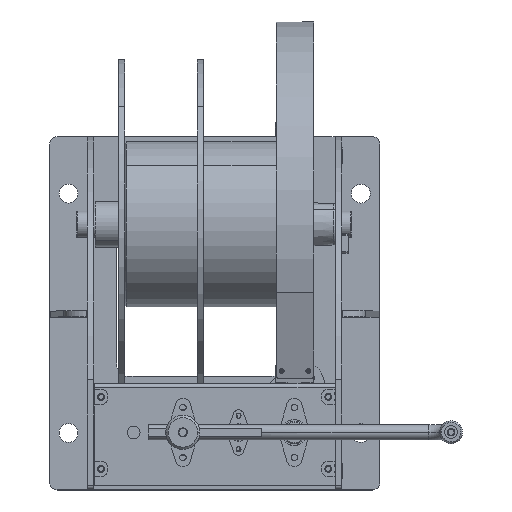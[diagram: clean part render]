
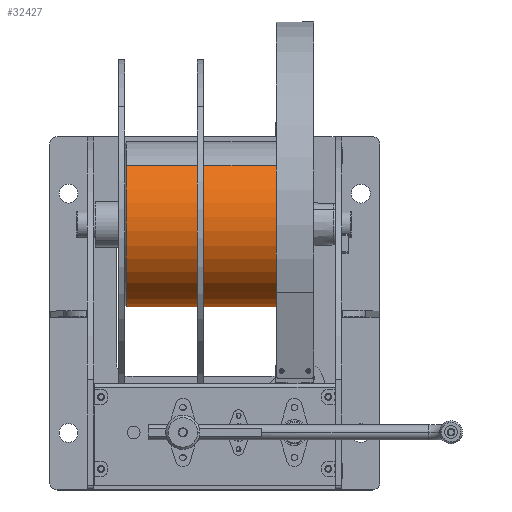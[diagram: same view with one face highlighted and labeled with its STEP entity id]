
A CAD part, top view. The second image highlights one B-rep face of the part: STEP entity #32427.
In plain terms, the highlighted cylindrical face has radius 109.55 mm (diameter 219.1 mm), a partial arc.
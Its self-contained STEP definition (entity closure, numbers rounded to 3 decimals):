
#1527 = CARTESIAN_POINT ( 'NONE',  ( -109.55, 0., 105.5 ) ) ;
#2644 = CARTESIAN_POINT ( 'NONE',  ( 0., 0., -105.5 ) ) ;
#3619 = VECTOR ( 'NONE', #71160, 1000. ) ;
#3894 = ORIENTED_EDGE ( 'NONE', *, *, #75096, .F. ) ;
#4915 = VECTOR ( 'NONE', #37119, 1000. ) ;
#5994 = AXIS2_PLACEMENT_3D ( 'NONE', #17638, #11395, #79849 ) ;
#7205 = AXIS2_PLACEMENT_3D ( 'NONE', #54058, #16781, #60350 ) ;
#8916 = DIRECTION ( 'NONE',  ( 1., 0., 0. ) ) ;
#10533 = VERTEX_POINT ( 'NONE', #23763 ) ;
#11395 = DIRECTION ( 'NONE',  ( 0., 0., -1. ) ) ;
#11587 = EDGE_CURVE ( 'NONE', #13465, #70966, #21545, .T. ) ;
#13465 = VERTEX_POINT ( 'NONE', #67332 ) ;
#14367 = EDGE_LOOP ( 'NONE', ( #45546, #51779, #39805, #3894 ) ) ;
#15365 = AXIS2_PLACEMENT_3D ( 'NONE', #2644, #46203, #8916 ) ;
#16781 = DIRECTION ( 'NONE',  ( 0., 0., -1. ) ) ;
#17638 = CARTESIAN_POINT ( 'NONE',  ( 0., 0., 108. ) ) ;
#20228 = LINE ( 'NONE', #33833, #3619 ) ;
#21545 = LINE ( 'NONE', #68222, #4915 ) ;
#23763 = CARTESIAN_POINT ( 'NONE',  ( -109.55, 0., -105.5 ) ) ;
#30450 = EDGE_CURVE ( 'NONE', #70966, #10533, #44616, .T. ) ;
#32427 = ADVANCED_FACE ( 'NONE', ( #56089 ), #54132, .T. ) ;
#33833 = CARTESIAN_POINT ( 'NONE',  ( -109.55, 0., 108. ) ) ;
#35898 = EDGE_CURVE ( 'NONE', #42615, #13465, #46332, .T. ) ;
#37119 = DIRECTION ( 'NONE',  ( 0., 0., -1. ) ) ;
#37722 = CARTESIAN_POINT ( 'NONE',  ( 109.55, 0., -105.5 ) ) ;
#39805 = ORIENTED_EDGE ( 'NONE', *, *, #30450, .T. ) ;
#42615 = VERTEX_POINT ( 'NONE', #1527 ) ;
#44616 = CIRCLE ( 'NONE', #15365, 109.55 ) ;
#45546 = ORIENTED_EDGE ( 'NONE', *, *, #35898, .T. ) ;
#46203 = DIRECTION ( 'NONE',  ( 0., 0., 1. ) ) ;
#46332 = CIRCLE ( 'NONE', #7205, 109.55 ) ;
#51779 = ORIENTED_EDGE ( 'NONE', *, *, #11587, .T. ) ;
#54058 = CARTESIAN_POINT ( 'NONE',  ( 0., 0., 105.5 ) ) ;
#54132 = CYLINDRICAL_SURFACE ( 'NONE', #5994, 109.55 ) ;
#56089 = FACE_OUTER_BOUND ( 'NONE', #14367, .T. ) ;
#60350 = DIRECTION ( 'NONE',  ( 1., 0., 0. ) ) ;
#67332 = CARTESIAN_POINT ( 'NONE',  ( 109.55, 0., 105.5 ) ) ;
#68222 = CARTESIAN_POINT ( 'NONE',  ( 109.55, 0., 108. ) ) ;
#70966 = VERTEX_POINT ( 'NONE', #37722 ) ;
#71160 = DIRECTION ( 'NONE',  ( 0., 0., -1. ) ) ;
#75096 = EDGE_CURVE ( 'NONE', #42615, #10533, #20228, .T. ) ;
#79849 = DIRECTION ( 'NONE',  ( -1., 0., 0. ) ) ;
